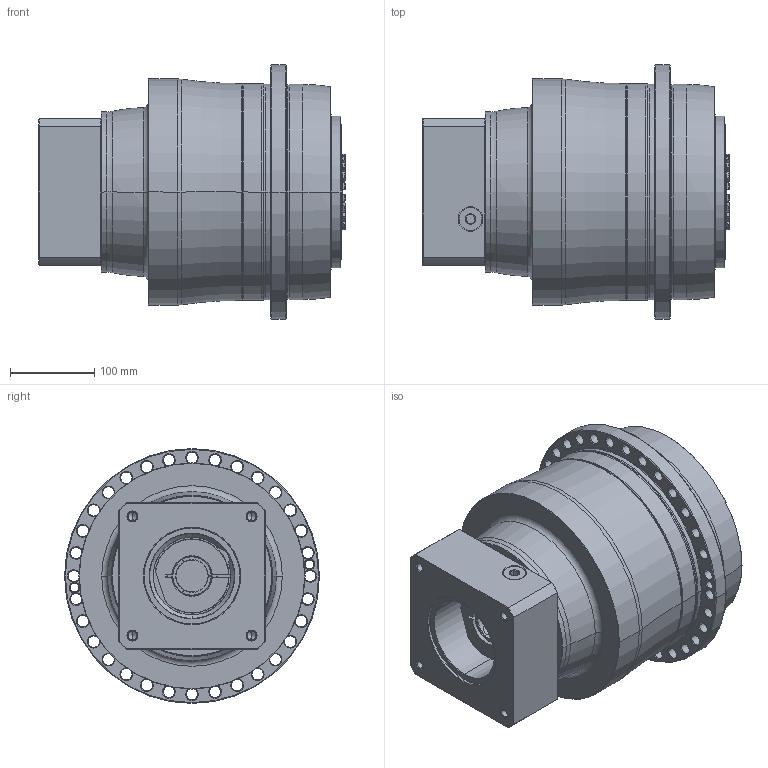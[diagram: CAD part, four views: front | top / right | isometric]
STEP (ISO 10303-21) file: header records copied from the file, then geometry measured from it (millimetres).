
FILE_DESCRIPTION((''),'2;1');
FILE_NAME('APC255_3ST_38-P0409910201_ASM','2018-07-05T',('d01226'),(''),'PRO/ENGINEER BY PARAMETRIC TECHNOLOGY CORPORATION, 2008410','PRO/ENGINEER BY PARAMETRIC TECHNOLOGY CORPORATION, 2008410','');
FILE_SCHEMA(('CONFIG_CONTROL_DESIGN'));
Length unit declared in the file: millimetre
Products named in the file (9): P0278701003; P0359770103; P1366700401; P0503900012; P0912504001; P1211700001; P0409910201; 21711422019; APC255_3ST_38-P0409910201_ASM
Assembly tree (8 placements, depth 2):
  APC255_3ST_38-P0409910201_ASM
    P0278701003
    P0359770103
    P1366700401
    P0503900012
    P0912504001
    P1211700001
    P0409910201
    21711422019
Bounding box: 363.1 x 302 x 302 mm (x, y, z)
Volume: 15153608.9 mm3; surface area: 838837 mm2
Topology: 9 solids, 21 shells, 759 faces, 1866 edges, 1137 vertices
Faces by surface type: cone 272, cylinder 230, plane 128, torus 113, bspline 16
Entity records: 27936 total; most frequent: CARTESIAN_POINT 9535, DIRECTION 4117, ORIENTED_EDGE 3646, EDGE_CURVE 1848, AXIS2_PLACEMENT_3D 1791, VERTEX_POINT 1137, CIRCLE 1019, EDGE_LOOP 871
